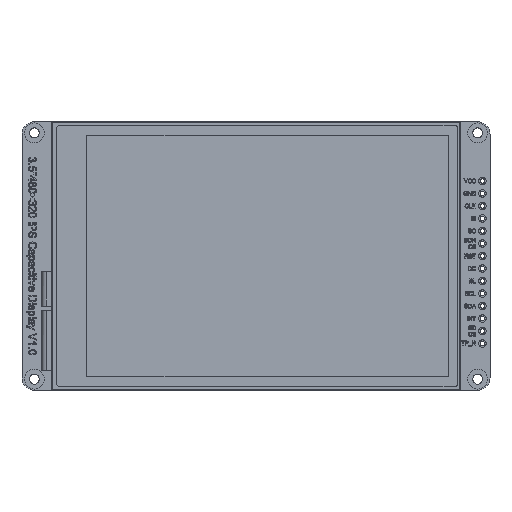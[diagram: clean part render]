
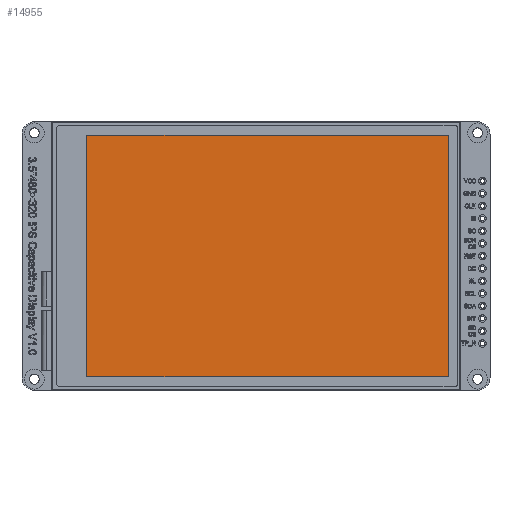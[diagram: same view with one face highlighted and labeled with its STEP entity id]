
A CAD part, top view. The second image highlights one B-rep face of the part: STEP entity #14955.
In plain terms, the highlighted planar face has unit normal (0, 0, 1).
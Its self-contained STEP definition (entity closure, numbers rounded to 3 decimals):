
#14955=ADVANCED_FACE('',(#19104),#76545,.T.);
#19104=FACE_OUTER_BOUND('',#23387,.T.);
#23387=EDGE_LOOP('',(#31065,#31066,#31067,#31068));
#31065=ORIENTED_EDGE('',*,*,#50181,.T.);
#31066=ORIENTED_EDGE('',*,*,#50180,.T.);
#31067=ORIENTED_EDGE('',*,*,#50179,.T.);
#31068=ORIENTED_EDGE('',*,*,#50178,.T.);
#50178=EDGE_CURVE('',#70129,#70130,#60520,.T.);
#50179=EDGE_CURVE('',#70131,#70129,#60521,.T.);
#50180=EDGE_CURVE('',#70132,#70131,#60522,.T.);
#50181=EDGE_CURVE('',#70130,#70132,#60523,.T.);
#60520=B_SPLINE_CURVE_WITH_KNOTS('',1,(#104888,#104889),.UNSPECIFIED.,.F.,
 .F.,(2,2),(-450.572,-401.612),.UNSPECIFIED.);
#60521=B_SPLINE_CURVE_WITH_KNOTS('',1,(#104890,#104891),.UNSPECIFIED.,.F.,
 .F.,(2,2),(-524.012,-450.572),.UNSPECIFIED.);
#60522=B_SPLINE_CURVE_WITH_KNOTS('',1,(#104892,#104893),.UNSPECIFIED.,.F.,
 .F.,(2,2),(-572.972,-524.012),.UNSPECIFIED.);
#60523=B_SPLINE_CURVE_WITH_KNOTS('',1,(#104894,#104895),.UNSPECIFIED.,.F.,
 .F.,(2,2),(-646.412,-572.972),.UNSPECIFIED.);
#70129=VERTEX_POINT('',#104864);
#70130=VERTEX_POINT('',#104865);
#70131=VERTEX_POINT('',#104866);
#70132=VERTEX_POINT('',#104867);
#76545=PLANE('',#80477);
#80477=AXIS2_PLACEMENT_3D('',#104858,#85187,$);
#85187=DIRECTION('',(0.,0.,1.));
#104858=CARTESIAN_POINT('',(41.5,27.25,2.2));
#104864=CARTESIAN_POINT('',(39.1,-24.48,2.2));
#104865=CARTESIAN_POINT('',(39.1,24.48,2.2));
#104866=CARTESIAN_POINT('',(-34.34,-24.48,2.2));
#104867=CARTESIAN_POINT('',(-34.34,24.48,2.2));
#104888=CARTESIAN_POINT('',(39.1,-24.48,2.2));
#104889=CARTESIAN_POINT('',(39.1,24.48,2.2));
#104890=CARTESIAN_POINT('',(-34.34,-24.48,2.2));
#104891=CARTESIAN_POINT('',(39.1,-24.48,2.2));
#104892=CARTESIAN_POINT('',(-34.34,24.48,2.2));
#104893=CARTESIAN_POINT('',(-34.34,-24.48,2.2));
#104894=CARTESIAN_POINT('',(39.1,24.48,2.2));
#104895=CARTESIAN_POINT('',(-34.34,24.48,2.2));
